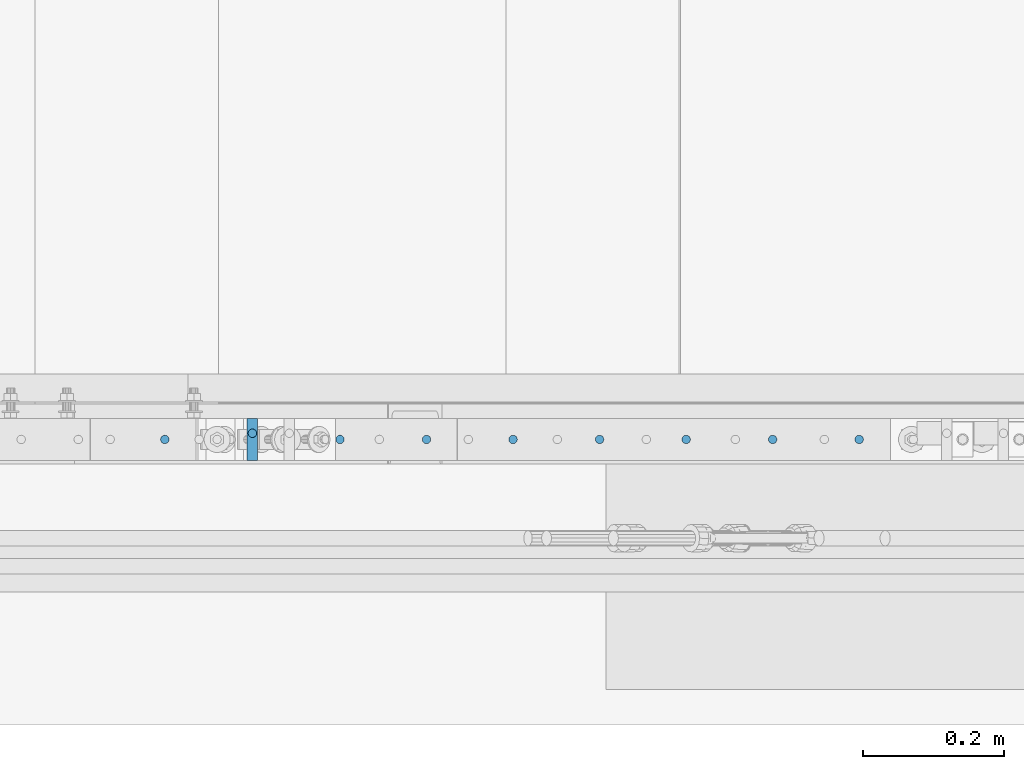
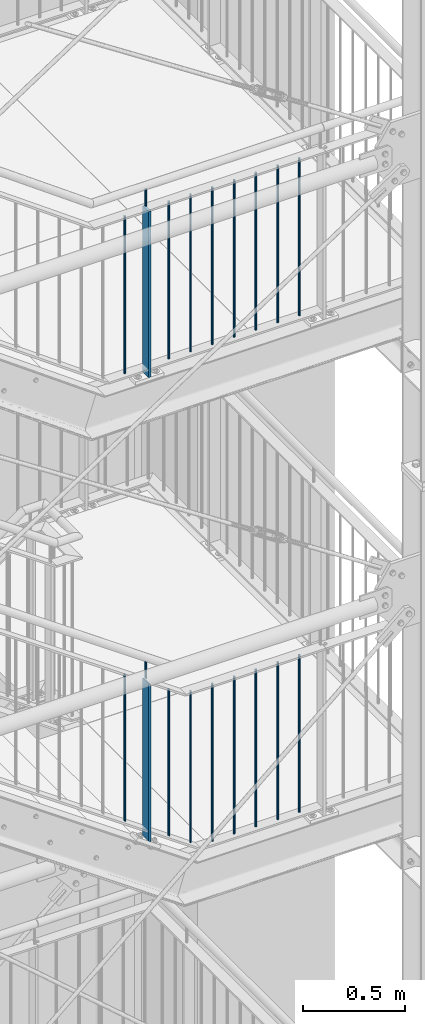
# One storey, part 83 of 821: 20 columns.
"""IFC2X3 building model written with IfcOpenShell, lengths in millimetres."""

from ifc_helpers import new_model, entity, si_unit, converted_unit, frame, origin, origin_with_axes, origin_2d, place, context, project, spatial, rectangle, circle, extrude, clip, halfspace, material, element, save


model = new_model("IFC2X3")

# Units and contexts
model_context = context("Model", 3, precision=1e-09, world=origin_with_axes())
ifc_project = project(units=[si_unit("LENGTHUNIT", "METRE", prefix="MILLI"), si_unit("AREAUNIT", "SQUARE_METRE"), si_unit("VOLUMEUNIT", "CUBIC_METRE"), converted_unit("PLANEANGLEUNIT", "DEGREE", entity("IfcPlaneAngleMeasure", 0.01745329), si_unit("PLANEANGLEUNIT", "RADIAN"), dimensions=[0, 0, 0, 0, 0, 0, 0])], contexts=[model_context])

# Site, building, storey
site_placement = place(None, origin_with_axes())
site = spatial("IfcSite", under=ifc_project, at=site_placement, Name="Cnopf'sche Kinderklinik", CompositionType="ELEMENT")
building_placement = place(site_placement, origin_with_axes())
building = spatial("IfcBuilding", under=site, at=building_placement, Name="Struktur 1", CompositionType="ELEMENT")
storey_placement = place(building_placement, origin_with_axes())
storey = spatial("IfcBuildingStorey", under=building, at=storey_placement, Name="Default Storey", CompositionType="ELEMENT", Elevation=0.0)

# Columns
ifc_material = material(Name="S235JR")
column_1_placement = place(None, frame((7364.792117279, 4526.736971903, 6863.544874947), z_axis=(0.0, 0.0, 1.0), x_axis=(-1.0, 0.0, 0.0)))
element("IfcColumn", 1, at=column_1_placement, inside=storey, material=ifc_material, Name="Railing_Post_Stair#9", ObjectType="Railing_Post_Stair#9", context=model_context, shape_type="Clipping", body=[
    clip(clip(extrude(rectangle(XDim=15.0, YDim=60.0, at=origin_2d()), origin(), (0.0, 0.0, -1.0), 1013.014378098), halfspace(frame((2158.312095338, 4526.736971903, 542.159503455), z_axis=(-0.57512827, 0.0, 0.818063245), x_axis=(0.0, -1.0, 0.0)), True)), halfspace(frame((1717.268514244, 4526.736971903, 1169.500502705), z_axis=(0.57512827, 0.0, -0.818063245), x_axis=(0.0, 1.0, 0.0)), True)),
])
column_2_placement = place(None, frame((8225.542260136, 4526.736971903, 6697.180018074), z_axis=(0.0, 0.0, 1.0), x_axis=(-1.0, 0.0, 0.0)))
element("IfcColumn", 2, at=column_2_placement, inside=storey, material=ifc_material, Name="Railing_Picket_Landing#55", ObjectType="Railing_Picket_Landing#55", context=model_context, shape_type="Clipping", body=[
    clip(clip(extrude(circle(Radius=6.0, at=origin_2d()), origin(), (0.0, 0.0, -1.0), 965.770562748), halfspace(frame((8225.542260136, 4526.736971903, -13.486281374), z_axis=(0.0, 0.0, -1.0), x_axis=(1.0, 0.0, 0.0)), True)), halfspace(frame((8225.542260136, 4526.736971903, -952.284281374), z_axis=(0.0, 0.0, 1.0), x_axis=(-1.0, 0.0, 0.0)), True)),
])
column_3_placement = place(None, frame((8102.792236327, 4526.736971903, 6697.180018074), z_axis=(0.0, 0.0, 1.0), x_axis=(-1.0, 0.0, 0.0)))
element("IfcColumn", 3, at=column_3_placement, inside=storey, material=ifc_material, Name="Railing_Picket_Landing#56", ObjectType="Railing_Picket_Landing#56", context=model_context, shape_type="Clipping", body=[
    clip(clip(extrude(circle(Radius=6.0, at=origin_2d()), origin(), (0.0, 0.0, -1.0), 965.770562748), halfspace(frame((8102.792236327, 4526.736971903, -13.486281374), z_axis=(0.0, 0.0, -1.0), x_axis=(1.0, 0.0, 0.0)), True)), halfspace(frame((8102.792236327, 4526.736971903, -952.284281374), z_axis=(0.0, 0.0, 1.0), x_axis=(-1.0, 0.0, 0.0)), True)),
])
column_4_placement = place(None, frame((7980.042212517, 4526.736971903, 6697.180018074), z_axis=(0.0, 0.0, 1.0), x_axis=(-1.0, 0.0, 0.0)))
element("IfcColumn", 4, at=column_4_placement, inside=storey, material=ifc_material, Name="Railing_Picket_Landing#57", ObjectType="Railing_Picket_Landing#57", context=model_context, shape_type="Clipping", body=[
    clip(clip(extrude(circle(Radius=6.0, at=origin_2d()), origin(), (0.0, 0.0, -1.0), 965.770562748), halfspace(frame((7980.042212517, 4526.736971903, -13.486281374), z_axis=(0.0, 0.0, -1.0), x_axis=(1.0, 0.0, 0.0)), True)), halfspace(frame((7980.042212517, 4526.736971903, -952.284281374), z_axis=(0.0, 0.0, 1.0), x_axis=(-1.0, 0.0, 0.0)), True)),
])
column_5_placement = place(None, frame((7857.292188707, 4526.736971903, 6697.180018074), z_axis=(0.0, 0.0, 1.0), x_axis=(-1.0, 0.0, 0.0)))
element("IfcColumn", 5, at=column_5_placement, inside=storey, material=ifc_material, Name="Railing_Picket_Landing#58", ObjectType="Railing_Picket_Landing#58", context=model_context, shape_type="Clipping", body=[
    clip(clip(extrude(circle(Radius=6.0, at=origin_2d()), origin(), (0.0, 0.0, -1.0), 965.770562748), halfspace(frame((7857.292188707, 4526.736971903, -13.486281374), z_axis=(0.0, 0.0, -1.0), x_axis=(1.0, 0.0, 0.0)), True)), halfspace(frame((7857.292188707, 4526.736971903, -952.284281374), z_axis=(0.0, 0.0, 1.0), x_axis=(-1.0, 0.0, 0.0)), True)),
])
column_6_placement = place(None, frame((7734.542164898, 4526.736971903, 6697.180018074), z_axis=(0.0, 0.0, 1.0), x_axis=(-1.0, 0.0, 0.0)))
element("IfcColumn", 6, at=column_6_placement, inside=storey, material=ifc_material, Name="Railing_Picket_Landing#59", ObjectType="Railing_Picket_Landing#59", context=model_context, shape_type="Clipping", body=[
    clip(clip(extrude(circle(Radius=6.0, at=origin_2d()), origin(), (0.0, 0.0, -1.0), 965.770562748), halfspace(frame((7734.542164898, 4526.736971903, -13.486281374), z_axis=(0.0, 0.0, -1.0), x_axis=(1.0, 0.0, 0.0)), True)), halfspace(frame((7734.542164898, 4526.736971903, -952.284281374), z_axis=(0.0, 0.0, 1.0), x_axis=(-1.0, 0.0, 0.0)), True)),
])
column_7_placement = place(None, frame((7611.792141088, 4526.736971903, 6683.6947367), z_axis=(0.0, 0.0, 1.0), x_axis=(-1.0, 0.0, 0.0)))
element("IfcColumn", 7, at=column_7_placement, inside=storey, material=ifc_material, Name="Railing_Picket_Stair#60", ObjectType="Railing_Picket_Stair#60", context=model_context, shape_type="SweptSolid", body=[
    extrude(circle(Radius=6.0, at=origin_2d()), origin(), (0.0, 0.0, -1.0), 903.675456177),
])
column_8_placement = place(None, frame((7489.042117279, 4526.736971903, 6748.76438721), z_axis=(0.0, 0.0, 1.0), x_axis=(-1.0, 0.0, 0.0)))
element("IfcColumn", 8, at=column_8_placement, inside=storey, material=ifc_material, Name="Railing_Picket_Stair#61", ObjectType="Railing_Picket_Stair#61", context=model_context, shape_type="Clipping", body=[
    clip(clip(extrude(circle(Radius=6.0, at=origin_2d()), origin(), (0.0, 0.0, -1.0), 897.037988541), halfspace(frame((1841.518514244, 4526.736971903, 1284.280990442), z_axis=(0.57512827, 0.0, -0.818063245), x_axis=(0.0, 1.0, 0.0)), True)), halfspace(frame((2253.805681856, 4526.736971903, 697.843153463), z_axis=(-0.57512827, 0.0, 0.818063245), x_axis=(0.0, -1.0, 0.0)), True)),
])
column_9_placement = place(None, frame((7240.542117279, 4526.736971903, 6923.46894188), z_axis=(0.0, 0.0, 1.0), x_axis=(-1.0, 0.0, 0.0)))
element("IfcColumn", 9, at=column_9_placement, inside=storey, material=ifc_material, Name="Railing_Picket_Stair#62", ObjectType="Railing_Picket_Stair#62", context=model_context, shape_type="Clipping", body=[
    clip(clip(extrude(circle(Radius=6.0, at=origin_2d()), origin(), (0.0, 0.0, -1.0), 897.037988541), halfspace(frame((1593.018514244, 4526.736971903, 1109.576435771), z_axis=(0.57512827, 0.0, -0.818063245), x_axis=(0.0, 1.0, 0.0)), True)), halfspace(frame((2005.305681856, 4526.736971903, 523.138598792), z_axis=(-0.57512827, 0.0, 0.818063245), x_axis=(0.0, -1.0, 0.0)), True)),
])
column_10_placement = place(None, frame((7364.792117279, 4535.536971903, 6948.340658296), z_axis=(0.0, 0.0, 1.0), x_axis=(0.0, 1.0, 0.0)))
element("IfcColumn", 10, at=column_10_placement, inside=storey, material=ifc_material, Name="Bar#9", ObjectType="Bar#9", context=model_context, shape_type="Clipping", body=[
    clip(clip(extrude(circle(Radius=6.0, at=origin_2d()), origin(), (0.0, 0.0, -1.0), 120.744805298), halfspace(frame((-4535.536971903, 1664.468101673, 1159.808099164), z_axis=(0.0, 0.57512827, -0.818063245), x_axis=(-1.0, 0.0, 0.0)), True)), halfspace(frame((-4535.536971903, 1711.516081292, 1092.886987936), z_axis=(0.0, -0.57512827, 0.818063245), x_axis=(1.0, 0.0, 0.0)), True)),
])
column_11_placement = place(None, frame((7364.792117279, 4526.736971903, 9675.723292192), z_axis=(0.0, 0.0, 1.0), x_axis=(-1.0, 0.0, 0.0)))
element("IfcColumn", 11, at=column_11_placement, inside=storey, material=ifc_material, Name="Railing_Post_Landing#9", ObjectType="Railing_Post_Landing#9", context=model_context, shape_type="Clipping", body=[
    clip(clip(extrude(rectangle(XDim=15.0, YDim=60.0, at=origin_2d()), origin(), (0.0, 0.0, -1.0), 1070.646584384), halfspace(frame((7364.792117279, 4526.736971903, -1019.722292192), z_axis=(0.0, 0.0, 1.0), x_axis=(-1.0, 0.0, 0.0)), True)), halfspace(frame((7364.792117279, 4526.736971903, -30.924292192), z_axis=(0.0, 0.0, -1.0), x_axis=(1.0, 0.0, 0.0)), True)),
])
column_12_placement = place(None, frame((8225.542260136, 4526.736971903, 9658.285281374), z_axis=(0.0, 0.0, 1.0), x_axis=(-1.0, 0.0, 0.0)))
element("IfcColumn", 12, at=column_12_placement, inside=storey, material=ifc_material, Name="Railing_Picket_Landing#55", ObjectType="Railing_Picket_Landing#55", context=model_context, shape_type="Clipping", body=[
    clip(clip(extrude(circle(Radius=6.0, at=origin_2d()), origin(), (0.0, 0.0, -1.0), 965.770562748), halfspace(frame((8225.542260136, 4526.736971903, -13.486281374), z_axis=(0.0, 0.0, -1.0), x_axis=(1.0, 0.0, 0.0)), True)), halfspace(frame((8225.542260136, 4526.736971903, -952.284281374), z_axis=(0.0, 0.0, 1.0), x_axis=(-1.0, 0.0, 0.0)), True)),
])
column_13_placement = place(None, frame((8102.792236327, 4526.736971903, 9658.285281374), z_axis=(0.0, 0.0, 1.0), x_axis=(-1.0, 0.0, 0.0)))
element("IfcColumn", 13, at=column_13_placement, inside=storey, material=ifc_material, Name="Railing_Picket_Landing#56", ObjectType="Railing_Picket_Landing#56", context=model_context, shape_type="Clipping", body=[
    clip(clip(extrude(circle(Radius=6.0, at=origin_2d()), origin(), (0.0, 0.0, -1.0), 965.770562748), halfspace(frame((8102.792236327, 4526.736971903, -13.486281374), z_axis=(0.0, 0.0, -1.0), x_axis=(1.0, 0.0, 0.0)), True)), halfspace(frame((8102.792236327, 4526.736971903, -952.284281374), z_axis=(0.0, 0.0, 1.0), x_axis=(-1.0, 0.0, 0.0)), True)),
])
column_14_placement = place(None, frame((7980.042212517, 4526.736971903, 9658.285281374), z_axis=(0.0, 0.0, 1.0), x_axis=(-1.0, 0.0, 0.0)))
element("IfcColumn", 14, at=column_14_placement, inside=storey, material=ifc_material, Name="Railing_Picket_Landing#57", ObjectType="Railing_Picket_Landing#57", context=model_context, shape_type="Clipping", body=[
    clip(clip(extrude(circle(Radius=6.0, at=origin_2d()), origin(), (0.0, 0.0, -1.0), 965.770562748), halfspace(frame((7980.042212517, 4526.736971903, -13.486281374), z_axis=(0.0, 0.0, -1.0), x_axis=(1.0, 0.0, 0.0)), True)), halfspace(frame((7980.042212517, 4526.736971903, -952.284281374), z_axis=(0.0, 0.0, 1.0), x_axis=(-1.0, 0.0, 0.0)), True)),
])
column_15_placement = place(None, frame((7857.292188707, 4526.736971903, 9658.285281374), z_axis=(0.0, 0.0, 1.0), x_axis=(-1.0, 0.0, 0.0)))
element("IfcColumn", 15, at=column_15_placement, inside=storey, material=ifc_material, Name="Railing_Picket_Landing#58", ObjectType="Railing_Picket_Landing#58", context=model_context, shape_type="Clipping", body=[
    clip(clip(extrude(circle(Radius=6.0, at=origin_2d()), origin(), (0.0, 0.0, -1.0), 965.770562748), halfspace(frame((7857.292188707, 4526.736971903, -13.486281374), z_axis=(0.0, 0.0, -1.0), x_axis=(1.0, 0.0, 0.0)), True)), halfspace(frame((7857.292188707, 4526.736971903, -952.284281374), z_axis=(0.0, 0.0, 1.0), x_axis=(-1.0, 0.0, 0.0)), True)),
])
column_16_placement = place(None, frame((7734.542164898, 4526.736971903, 9658.285281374), z_axis=(0.0, 0.0, 1.0), x_axis=(-1.0, 0.0, 0.0)))
element("IfcColumn", 16, at=column_16_placement, inside=storey, material=ifc_material, Name="Railing_Picket_Landing#59", ObjectType="Railing_Picket_Landing#59", context=model_context, shape_type="Clipping", body=[
    clip(clip(extrude(circle(Radius=6.0, at=origin_2d()), origin(), (0.0, 0.0, -1.0), 965.770562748), halfspace(frame((7734.542164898, 4526.736971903, -13.486281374), z_axis=(0.0, 0.0, -1.0), x_axis=(1.0, 0.0, 0.0)), True)), halfspace(frame((7734.542164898, 4526.736971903, -952.284281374), z_axis=(0.0, 0.0, 1.0), x_axis=(-1.0, 0.0, 0.0)), True)),
])
column_17_placement = place(None, frame((7611.792141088, 4526.736971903, 9658.285281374), z_axis=(0.0, 0.0, 1.0), x_axis=(-1.0, 0.0, 0.0)))
element("IfcColumn", 17, at=column_17_placement, inside=storey, material=ifc_material, Name="Railing_Picket_Landing#60", ObjectType="Railing_Picket_Landing#60", context=model_context, shape_type="Clipping", body=[
    clip(clip(extrude(circle(Radius=6.0, at=origin_2d()), origin(), (0.0, 0.0, -1.0), 965.770562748), halfspace(frame((7611.792141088, 4526.736971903, -13.486281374), z_axis=(0.0, 0.0, -1.0), x_axis=(1.0, 0.0, 0.0)), True)), halfspace(frame((7611.792141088, 4526.736971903, -952.284281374), z_axis=(0.0, 0.0, 1.0), x_axis=(-1.0, 0.0, 0.0)), True)),
])
column_18_placement = place(None, frame((7489.042117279, 4526.736971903, 9658.285281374), z_axis=(0.0, 0.0, 1.0), x_axis=(-1.0, 0.0, 0.0)))
element("IfcColumn", 18, at=column_18_placement, inside=storey, material=ifc_material, Name="Railing_Picket_Landing#61", ObjectType="Railing_Picket_Landing#61", context=model_context, shape_type="Clipping", body=[
    clip(clip(extrude(circle(Radius=6.0, at=origin_2d()), origin(), (0.0, 0.0, -1.0), 965.770562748), halfspace(frame((7489.042117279, 4526.736971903, -13.486281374), z_axis=(0.0, 0.0, -1.0), x_axis=(1.0, 0.0, 0.0)), True)), halfspace(frame((7489.042117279, 4526.736971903, -952.284281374), z_axis=(0.0, 0.0, 1.0), x_axis=(-1.0, 0.0, 0.0)), True)),
])
column_19_placement = place(None, frame((7240.542117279, 4526.736971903, 9658.285281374), z_axis=(0.0, 0.0, 1.0), x_axis=(-1.0, 0.0, 0.0)))
element("IfcColumn", 19, at=column_19_placement, inside=storey, material=ifc_material, Name="Railing_Picket_Landing#62", ObjectType="Railing_Picket_Landing#62", context=model_context, shape_type="Clipping", body=[
    clip(clip(extrude(circle(Radius=6.0, at=origin_2d()), origin(), (0.0, 0.0, -1.0), 965.770562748), halfspace(frame((7240.542117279, 4526.736971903, -13.486281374), z_axis=(0.0, 0.0, -1.0), x_axis=(1.0, 0.0, 0.0)), True)), halfspace(frame((7240.542117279, 4526.736971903, -952.284281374), z_axis=(0.0, 0.0, 1.0), x_axis=(-1.0, 0.0, 0.0)), True)),
])
column_20_placement = place(None, frame((7364.792117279, 4535.536971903, 9763.285281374), z_axis=(0.0, 0.0, 1.0), x_axis=(0.0, 1.0, 0.0)))
element("IfcColumn", 20, at=column_20_placement, inside=storey, material=ifc_material, Name="Bar#9", ObjectType="Bar#9", context=model_context, shape_type="Clipping", body=[
    clip(clip(extrude(circle(Radius=6.0, at=origin_2d()), origin(), (0.0, 0.0, -1.0), 116.970562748), halfspace(frame((-4535.536971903, 7364.792117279, -8.486281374), z_axis=(0.0, 0.0, -1.0), x_axis=(0.0, 1.0, 0.0)), True)), halfspace(frame((-4535.536971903, 7364.792117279, -108.484281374), z_axis=(0.0, 0.0, 1.0), x_axis=(0.0, -1.0, 0.0)), True)),
])

save(model, "model.ifc")
